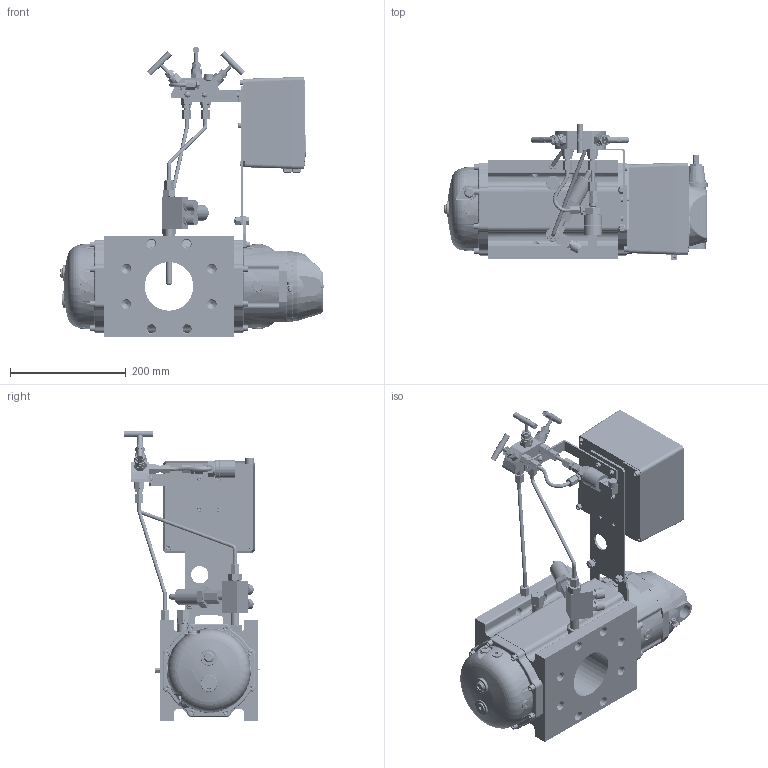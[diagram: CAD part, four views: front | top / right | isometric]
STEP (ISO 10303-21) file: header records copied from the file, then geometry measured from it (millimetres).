
FILE_DESCRIPTION(('STEP AP203'), '1');
FILE_NAME('楥-2230-G100', '', ('UNSPECIFIED'), ('UNSPECIFIED'), 'C3D Converter', 'C3D Toolkit', '');
FILE_SCHEMA(('CONFIG_CONTROL_DESIGN'));
Length unit declared in the file: millimetre
Bounding box: 455 x 235.75 x 502.43 mm (x, y, z)
Volume: 8803929.6 mm3; surface area: 827024.4 mm2
Topology: 5 solids, 8 shells, 10486 faces, 29327 edges, 19632 vertices
Faces by surface type: plane 5246, extrusion 2990, cylinder 1603, cone 270, torus 221, bspline 144, sphere 12
Full cylindrical faces by diameter (mm): 1 x23, 1.5 x1, 2 x11, 2.2 x1, 2.5 x4, 3 x17, 3.5 x4, 4 x29, 4.4 x1, 5 x5, 5.4 x1, 5.5 x5, 6 x13, 6.381 x1, 6.5 x9, 7 x16, 7.4 x4, 7.5 x7, 8 x5, 8.466 x1, 8.5 x5, 9.4 x9, 9.526 x2, 9.65 x1, 10 x37, 11 x24, 11.002 x1, 12 x17, 13.134 x3, 13.835 x16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
Entity records: 498805 total; most frequent: CARTESIAN_POINT 161568, ORIENTED_EDGE 56036, DIRECTION 41892, EDGE_CURVE 28618, VERTEX_POINT 19558, VECTOR 19252, LINE 16262, EDGE_LOOP 12084
